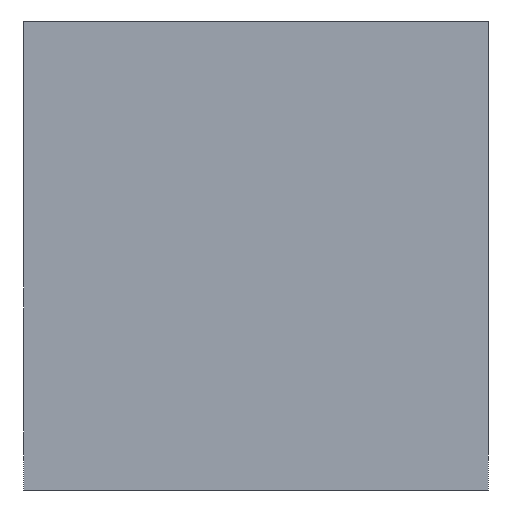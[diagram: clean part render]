
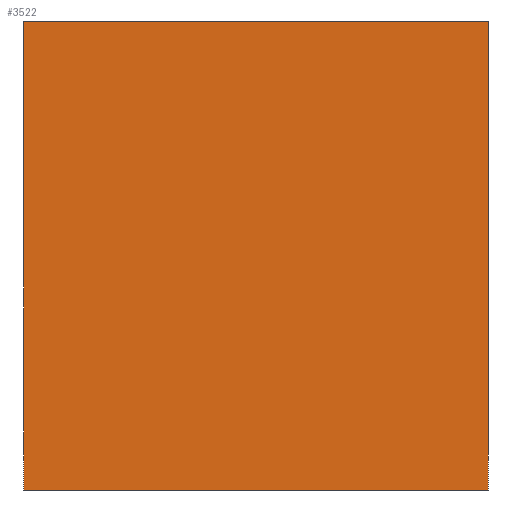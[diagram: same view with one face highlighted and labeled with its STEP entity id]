
A CAD part, left-side view. The second image highlights one B-rep face of the part: STEP entity #3522.
In plain terms, the highlighted planar face has unit normal (-1, 0, 0).
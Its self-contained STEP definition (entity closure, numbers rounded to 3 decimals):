
#1465 = CARTESIAN_POINT ( 'NONE',  ( 0., 29.75, 30. ) ) ;
#2392 = DIRECTION ( 'NONE',  ( 0., -1., 0. ) ) ;
#2431 = CARTESIAN_POINT ( 'NONE',  ( 0., -29.75, 30. ) ) ;
#2847 = CARTESIAN_POINT ( 'NONE',  ( 0., -29.75, -30. ) ) ;
#2864 = DIRECTION ( 'NONE',  ( 0., 1., 0. ) ) ;
#2961 = DIRECTION ( 'NONE',  ( 0., 0., 1. ) ) ;
#2979 = CARTESIAN_POINT ( 'NONE',  ( 0., 29.75, 30. ) ) ;
#3522 = ADVANCED_FACE ( 'NONE', ( #8746 ), #8386, .T. ) ;
#5152 = DIRECTION ( 'NONE',  ( 0., 0., -1. ) ) ;
#5324 = CARTESIAN_POINT ( 'NONE',  ( 0., -29.75, 30. ) ) ;
#6066 = CARTESIAN_POINT ( 'NONE',  ( 0., -29.75, -30. ) ) ;
#6282 = VERTEX_POINT ( 'NONE', #1465 ) ;
#6353 = ORIENTED_EDGE ( 'NONE', *, *, #13726, .F. ) ;
#7142 = DIRECTION ( 'NONE',  ( 0., 0., 1. ) ) ;
#7302 = CARTESIAN_POINT ( 'NONE',  ( 0., 29.75, -30. ) ) ;
#7371 = DIRECTION ( 'NONE',  ( -1., 0., 0. ) ) ;
#7597 = VERTEX_POINT ( 'NONE', #14570 ) ;
#8089 = EDGE_LOOP ( 'NONE', ( #6353, #12868, #11608, #10821 ) ) ;
#8386 = PLANE ( 'NONE',  #8505 ) ;
#8505 = AXIS2_PLACEMENT_3D ( 'NONE', #7302, #7371, #7142 ) ;
#8746 = FACE_OUTER_BOUND ( 'NONE', #8089, .T. ) ;
#9973 = VERTEX_POINT ( 'NONE', #6066 ) ;
#10370 = CARTESIAN_POINT ( 'NONE',  ( 0., -29.75, 30. ) ) ;
#10821 = ORIENTED_EDGE ( 'NONE', *, *, #13708, .F. ) ;
#11608 = ORIENTED_EDGE ( 'NONE', *, *, #13758, .F. ) ;
#11613 = VERTEX_POINT ( 'NONE', #10370 ) ;
#12868 = ORIENTED_EDGE ( 'NONE', *, *, #13564, .F. ) ;
#13457 = VECTOR ( 'NONE', #2392, 1000. ) ;
#13483 = LINE ( 'NONE', #2431, #13457 ) ;
#13500 = VECTOR ( 'NONE', #2864, 1000. ) ;
#13564 = EDGE_CURVE ( 'NONE', #11613, #9973, #13853, .T. ) ;
#13585 = VECTOR ( 'NONE', #2961, 1000. ) ;
#13611 = LINE ( 'NONE', #2847, #13500 ) ;
#13626 = LINE ( 'NONE', #2979, #13585 ) ;
#13708 = EDGE_CURVE ( 'NONE', #7597, #6282, #13626, .T. ) ;
#13726 = EDGE_CURVE ( 'NONE', #9973, #7597, #13611, .T. ) ;
#13758 = EDGE_CURVE ( 'NONE', #6282, #11613, #13483, .T. ) ;
#13839 = VECTOR ( 'NONE', #5152, 1000. ) ;
#13853 = LINE ( 'NONE', #5324, #13839 ) ;
#14570 = CARTESIAN_POINT ( 'NONE',  ( 0., 29.75, -30. ) ) ;
